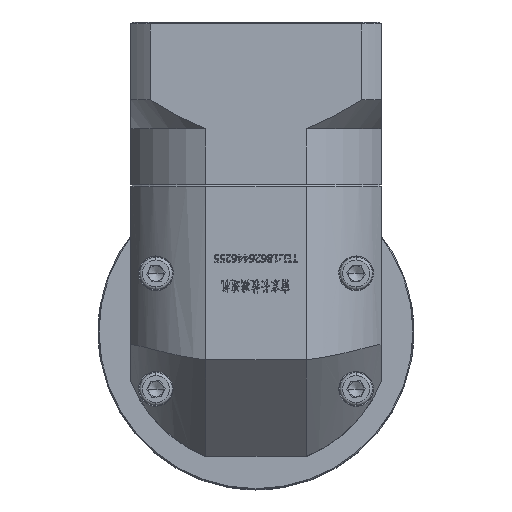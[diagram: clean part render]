
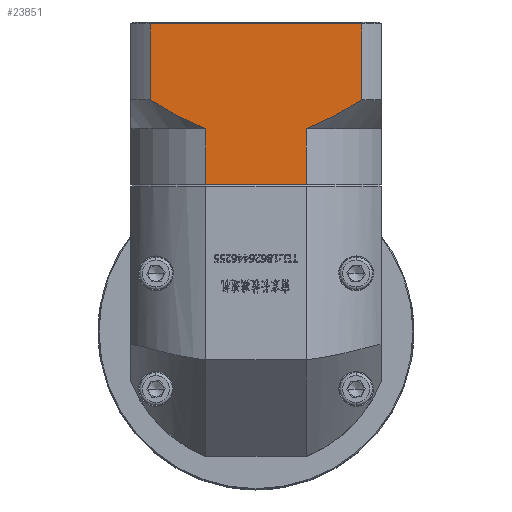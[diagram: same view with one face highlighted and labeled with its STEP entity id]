
A CAD part, top view. The second image highlights one B-rep face of the part: STEP entity #23851.
In plain terms, the highlighted planar face has unit normal (0, 0, 1).
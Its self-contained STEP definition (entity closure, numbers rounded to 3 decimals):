
#1173 = VECTOR ( 'NONE', #180774, 1000. ) ;
#2316 = EDGE_CURVE ( 'NONE', #51198, #31434, #95374, .T. ) ;
#4197 = DIRECTION ( 'NONE',  ( 1., 0., 0. ) ) ;
#6120 = EDGE_CURVE ( 'NONE', #132642, #87718, #94299, .T. ) ;
#9727 = CARTESIAN_POINT ( 'NONE',  ( -22.02, -26.764, 65.735 ) ) ;
#10168 = B_SPLINE_CURVE_WITH_KNOTS ( 'NONE', 3,
 ( #38003, #66139, #184941, #97496, #9727, #112121, #24504, #126818, #39238, #141477 ),
 .UNSPECIFIED., .F., .F.,
 ( 4, 2, 2, 2, 4 ),
 ( 0.101, 0.103, 0.105, 0.109, 0.117 ),
 .UNSPECIFIED. ) ;
#14622 = CARTESIAN_POINT ( 'NONE',  ( -25.187, -42.554, 65.735 ) ) ;
#18910 = CARTESIAN_POINT ( 'NONE',  ( -10.791, -20.554, 65.735 ) ) ;
#20763 = VERTEX_POINT ( 'NONE', #140769 ) ;
#20796 = EDGE_CURVE ( 'NONE', #20763, #31434, #23694, .T. ) ;
#23694 = LINE ( 'NONE', #184855, #135779 ) ;
#23851 = ADVANCED_FACE ( 'NONE', ( #58692 ), #99174, .F. ) ;
#23919 = ORIENTED_EDGE ( 'NONE', *, *, #93812, .F. ) ;
#24504 = CARTESIAN_POINT ( 'NONE',  ( -18.954, -25.309, 65.735 ) ) ;
#27517 = DIRECTION ( 'NONE',  ( 0., 0., -1. ) ) ;
#28574 = ORIENTED_EDGE ( 'NONE', *, *, #121436, .T. ) ;
#30473 = LINE ( 'NONE', #158439, #103687 ) ;
#30859 = EDGE_CURVE ( 'NONE', #20763, #43166, #10168, .T. ) ;
#31434 = VERTEX_POINT ( 'NONE', #14622 ) ;
#38003 = CARTESIAN_POINT ( 'NONE',  ( -25.187, -28.054, 65.735 ) ) ;
#38537 = DIRECTION ( 'NONE',  ( 0., -1., 0. ) ) ;
#39238 = CARTESIAN_POINT ( 'NONE',  ( -13.059, -22.016, 65.735 ) ) ;
#42822 = CARTESIAN_POINT ( 'NONE',  ( -63.274, -22.003, 65.735 ) ) ;
#43166 = VERTEX_POINT ( 'NONE', #18910 ) ;
#43250 = ORIENTED_EDGE ( 'NONE', *, *, #30859, .T. ) ;
#51198 = VERTEX_POINT ( 'NONE', #85641 ) ;
#51817 = DIRECTION ( 'NONE',  ( 0., -1., 0. ) ) ;
#56398 = VECTOR ( 'NONE', #4197, 1000. ) ;
#57549 = CARTESIAN_POINT ( 'NONE',  ( -60.939, -23.387, 65.735 ) ) ;
#57922 = ORIENTED_EDGE ( 'NONE', *, *, #76447, .F. ) ;
#58692 = FACE_OUTER_BOUND ( 'NONE', #102135, .T. ) ;
#62494 = CARTESIAN_POINT ( 'NONE',  ( -70.677, -42.554, 65.735 ) ) ;
#64332 = VECTOR ( 'NONE', #118290, 1000. ) ;
#66139 = CARTESIAN_POINT ( 'NONE',  ( -24.545, -27.816, 65.735 ) ) ;
#66801 = ORIENTED_EDGE ( 'NONE', *, *, #2316, .T. ) ;
#67895 = LINE ( 'NONE', #124684, #72530 ) ;
#72277 = CARTESIAN_POINT ( 'NONE',  ( -56.157, -25.968, 65.735 ) ) ;
#72530 = VECTOR ( 'NONE', #51817, 1000. ) ;
#76447 = EDGE_CURVE ( 'NONE', #51198, #87718, #146611, .T. ) ;
#78920 = VERTEX_POINT ( 'NONE', #113430 ) ;
#79746 = VERTEX_POINT ( 'NONE', #163444 ) ;
#85641 = CARTESIAN_POINT ( 'NONE',  ( -51.167, -42.554, 65.735 ) ) ;
#86329 = CARTESIAN_POINT ( 'NONE',  ( -64.425, -21.288, 65.735 ) ) ;
#86784 = ORIENTED_EDGE ( 'NONE', *, *, #20796, .F. ) ;
#86969 = CARTESIAN_POINT ( 'NONE',  ( -51.167, -28.054, 65.735 ) ) ;
#87718 = VERTEX_POINT ( 'NONE', #101659 ) ;
#93812 = EDGE_CURVE ( 'NONE', #78920, #43166, #67895, .T. ) ;
#94299 = B_SPLINE_CURVE_WITH_KNOTS ( 'NONE', 3,
 ( #188542, #86329, #42822, #57549, #159759, #72277, #174467, #86969 ),
 .UNSPECIFIED., .F., .F.,
 ( 4, 2, 2, 4 ),
 ( 0.058, 0.062, 0.066, 0.074 ),
 .UNSPECIFIED. ) ;
#95374 = LINE ( 'NONE', #62494, #56398 ) ;
#97496 = CARTESIAN_POINT ( 'NONE',  ( -22.644, -27.038, 65.735 ) ) ;
#99174 = PLANE ( 'NONE',  #111866 ) ;
#101659 = CARTESIAN_POINT ( 'NONE',  ( -51.167, -28.054, 65.735 ) ) ;
#102135 = EDGE_LOOP ( 'NONE', ( #23919, #28574, #166377, #157081, #57922, #66801, #86784, #43250 ) ) ;
#103660 = CARTESIAN_POINT ( 'NONE',  ( -51.167, -28.054, 65.735 ) ) ;
#103687 = VECTOR ( 'NONE', #145621, 1000. ) ;
#111151 = CARTESIAN_POINT ( 'NONE',  ( -65.563, -20.554, 65.735 ) ) ;
#111866 = AXIS2_PLACEMENT_3D ( 'NONE', #115099, #27517, #129773 ) ;
#112121 = CARTESIAN_POINT ( 'NONE',  ( -20.166, -25.914, 65.735 ) ) ;
#113344 = LINE ( 'NONE', #137945, #1173 ) ;
#113430 = CARTESIAN_POINT ( 'NONE',  ( -10.791, -0.854, 65.735 ) ) ;
#115099 = CARTESIAN_POINT ( 'NONE',  ( -70.677, -0.354, 65.735 ) ) ;
#118290 = DIRECTION ( 'NONE',  ( 0., 1., 0. ) ) ;
#121436 = EDGE_CURVE ( 'NONE', #78920, #79746, #113344, .T. ) ;
#124684 = CARTESIAN_POINT ( 'NONE',  ( -10.791, -28.054, 65.735 ) ) ;
#126818 = CARTESIAN_POINT ( 'NONE',  ( -15.373, -23.404, 65.735 ) ) ;
#129185 = EDGE_CURVE ( 'NONE', #132642, #79746, #30473, .T. ) ;
#129773 = DIRECTION ( 'NONE',  ( 0., 1., 0. ) ) ;
#132642 = VERTEX_POINT ( 'NONE', #111151 ) ;
#135779 = VECTOR ( 'NONE', #38537, 1000. ) ;
#137945 = CARTESIAN_POINT ( 'NONE',  ( -70.677, -0.854, 65.735 ) ) ;
#140769 = CARTESIAN_POINT ( 'NONE',  ( -25.187, -28.054, 65.735 ) ) ;
#141477 = CARTESIAN_POINT ( 'NONE',  ( -10.791, -20.554, 65.735 ) ) ;
#145621 = DIRECTION ( 'NONE',  ( 0., 1., 0. ) ) ;
#146611 = LINE ( 'NONE', #103660, #64332 ) ;
#157081 = ORIENTED_EDGE ( 'NONE', *, *, #6120, .T. ) ;
#158439 = CARTESIAN_POINT ( 'NONE',  ( -65.563, -28.054, 65.735 ) ) ;
#159759 = CARTESIAN_POINT ( 'NONE',  ( -59.753, -24.058, 65.735 ) ) ;
#163444 = CARTESIAN_POINT ( 'NONE',  ( -65.563, -0.854, 65.735 ) ) ;
#166377 = ORIENTED_EDGE ( 'NONE', *, *, #129185, .F. ) ;
#174467 = CARTESIAN_POINT ( 'NONE',  ( -53.706, -27.112, 65.735 ) ) ;
#180774 = DIRECTION ( 'NONE',  ( -1., 0., 0. ) ) ;
#184855 = CARTESIAN_POINT ( 'NONE',  ( -25.187, -28.054, 65.735 ) ) ;
#184941 = CARTESIAN_POINT ( 'NONE',  ( -23.906, -27.564, 65.735 ) ) ;
#188542 = CARTESIAN_POINT ( 'NONE',  ( -65.563, -20.554, 65.735 ) ) ;
